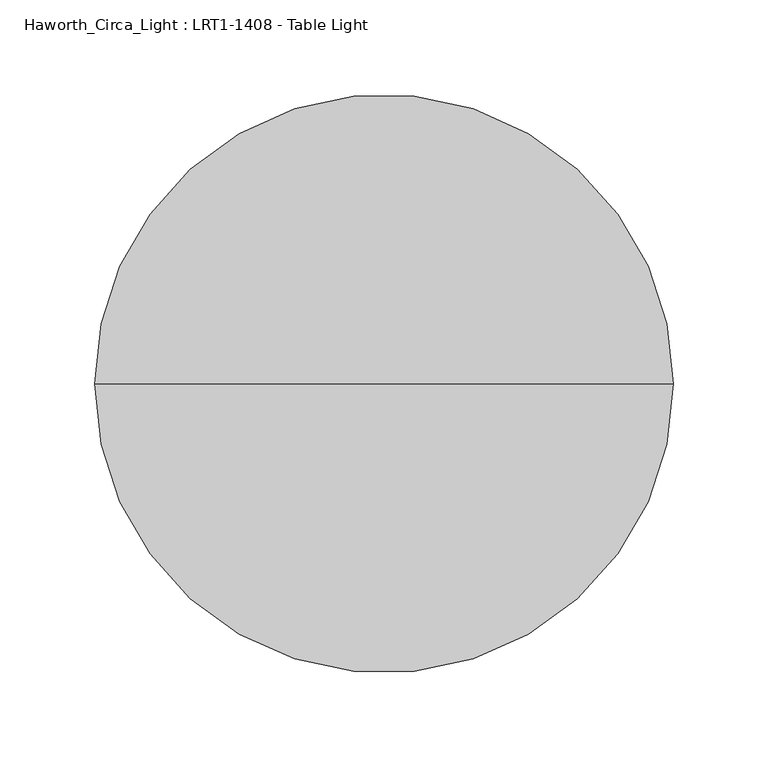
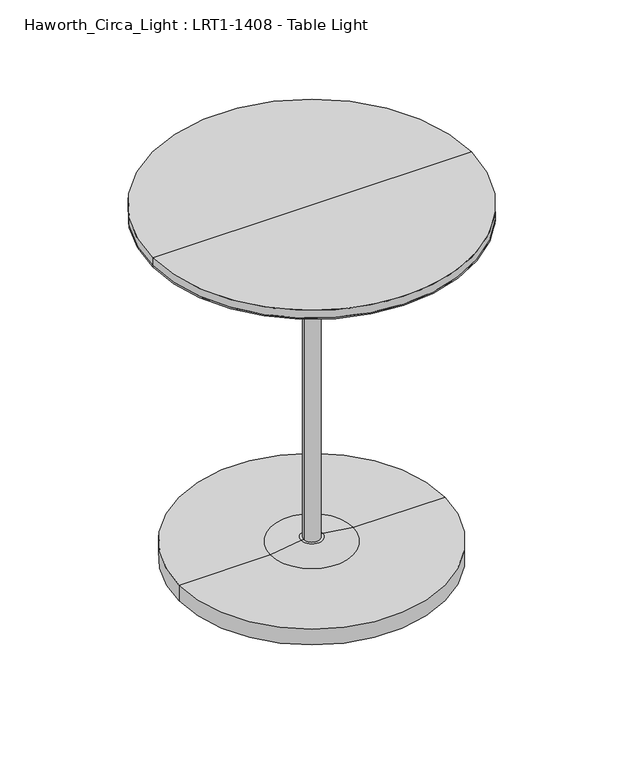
"""IFC4 building model written with IfcOpenShell, lengths in millimetres: light fixture geometry, Haworth_Circa_Light : LRT1-1408 - Table Light."""

from ifc_helpers import new_model, si_unit, frame, origin, place, context, project, spatial, polyline, circle_curve, source, transform, mapped, element, save
from ifc_brep_helpers import plane_surface, cylinder_surface, revolved_surface, advanced_brep


def haworth_circa_light_lrt1_1408_table_light_81ebaa20(model_context):
    return source(origin(), model_context, "Body", "AdvancedBrep", [
        advanced_brep(
        [(-122.9713699, 224.2532085, 1084.3022747), (181.8286301, 224.2532085, 1084.3022747), (181.8286301, 224.2532085, 1083.052351), (-122.9713699, 224.2532085, 1083.052351), (-27.7213699, 224.2532085, 1084.3022747), (86.5786301, 224.2532085, 1084.3022747), (-27.7213699, 224.2532085, 1083.052351), (86.5786301, 224.2532085, 1083.052351)],
        [
            (0, 1, circle_curve(frame((29.4286301, 224.2532085, 1084.3022747), z_axis=(0.0, 0.0, -1.0), x_axis=(1.0, 0.0, 0.0)), 152.4)),
            (1, 2),
            (2, 3, circle_curve(frame((29.4286301, 224.2532085, 1083.052351), z_axis=(0.0, 0.0, 1.0), x_axis=(1.0, 0.0, 0.0)), 152.4)),
            (3, 0),
            (1, 0, circle_curve(frame((29.4286301, 224.2532085, 1084.3022747), z_axis=(0.0, 0.0, -1.0), x_axis=(1.0, 0.0, 0.0)), 152.4)),
            (3, 2, circle_curve(frame((29.4286301, 224.2532085, 1083.052351), z_axis=(0.0, 0.0, 1.0), x_axis=(1.0, 0.0, 0.0)), 152.4)),
            (4, 5, circle_curve(frame((29.4286301, 224.2532085, 1084.3022747), z_axis=(0.0, 0.0, -1.0), x_axis=(1.0, 0.0, 0.0)), 57.15)),
            (5, 1),
            (0, 4),
            (5, 4, circle_curve(frame((29.4286301, 224.2532085, 1084.3022747), z_axis=(0.0, 0.0, -1.0), x_axis=(1.0, 0.0, 0.0)), 57.15)),
            (6, 7, circle_curve(frame((29.4286301, 224.2532085, 1083.052351), z_axis=(0.0, 0.0, -1.0), x_axis=(1.0, 0.0, 0.0)), 57.15)),
            (7, 5),
            (4, 6),
            (7, 6, circle_curve(frame((29.4286301, 224.2532085, 1083.052351), z_axis=(0.0, 0.0, -1.0), x_axis=(1.0, 0.0, 0.0)), 57.15)),
            (2, 7),
            (6, 3),
        ],
        [
            cylinder_surface(frame((29.4286301, 224.2532085, 1128.7522747), z_axis=(0.0, 0.0, 1.0), x_axis=(1.0, 0.0, 0.0)), 152.4),
            plane_surface(frame((29.4286301, 224.2532085, 1084.3022747), z_axis=(0.0, 0.0, 1.0), x_axis=(1.0, 0.0, 0.0))),
            revolved_surface(polyline([(86.5786301, 224.2532085, 1084.3022747), (86.5786301, 224.2532085, 1083.052351)]), (29.4286301, 224.2532085, 1128.7522747), (0.0, 0.0, 1.0)),
            plane_surface(frame((29.4286301, 224.2532085, 1083.052351), z_axis=(0.0, 0.0, -1.0), x_axis=(1.0, 0.0, 0.0))),
        ],
        [
            (0, [[1, 2, 3, 4]]),
            (0, [[5, -4, 6, -2]]),
            (1, [[7, 8, -1, 9]]),
            (1, [[10, -9, -5, -8]]),
            (2, [[11, 12, -7, 13]]),
            (2, [[14, -13, -10, -12]]),
            (3, [[-3, 15, -11, 16]]),
            (3, [[-6, -16, -14, -15]]),
        ],
    ),
        advanced_brep(
        [(-122.9713699, 224.2532085, 1084.3022747), (181.8286301, 224.2532085, 1084.3022747), (86.5786301, 224.2532085, 1084.3022747), (-27.7213699, 224.2532085, 1084.3022747), (-122.9713699, 224.2532085, 1092.2), (181.8286301, 224.2532085, 1092.2), (29.4286301, 224.2532085, 1092.2), (21.8095618, 224.2532085, 1077.3498415), (37.0476983, 224.2532085, 1077.3498415), (29.4286301, 224.2532085, 1077.3498415), (-27.7213699, 224.2532085, 1083.052351), (86.5786301, 224.2532085, 1083.052351)],
        [
            (0, 1, circle_curve(frame((29.4286301, 224.2532085, 1084.3022747), z_axis=(0.0, 0.0, -1.0), x_axis=(1.0, 0.0, 0.0)), 152.4)),
            (1, 2),
            (2, 3, circle_curve(frame((29.4286301, 224.2532085, 1084.3022747), z_axis=(0.0, 0.0, 1.0), x_axis=(1.0, 0.0, 0.0)), 57.15)),
            (3, 0),
            (1, 0, circle_curve(frame((29.4286301, 224.2532085, 1084.3022747), z_axis=(0.0, 0.0, -1.0), x_axis=(1.0, 0.0, 0.0)), 152.4)),
            (3, 2, circle_curve(frame((29.4286301, 224.2532085, 1084.3022747), z_axis=(0.0, 0.0, 1.0), x_axis=(1.0, 0.0, 0.0)), 57.15)),
            (4, 5, circle_curve(frame((29.4286301, 224.2532085, 1092.2), z_axis=(0.0, 0.0, -1.0), x_axis=(1.0, 0.0, 0.0)), 152.4)),
            (5, 1),
            (0, 4),
            (5, 4, circle_curve(frame((29.4286301, 224.2532085, 1092.2), z_axis=(0.0, 0.0, -1.0), x_axis=(1.0, 0.0, 0.0)), 152.4)),
            (6, 5),
            (4, 6),
            (7, 8, circle_curve(frame((29.4286301, 224.2532085, 1077.3498415), z_axis=(0.0, 0.0, -1.0), x_axis=(1.0, 0.0, 0.0)), 7.6190682)),
            (8, 9),
            (9, 7),
            (8, 7, circle_curve(frame((29.4286301, 224.2532085, 1077.3498415), z_axis=(0.0, 0.0, -1.0), x_axis=(1.0, 0.0, 0.0)), 7.6190682)),
            (10, 11, circle_curve(frame((29.4286301, 224.2532085, 1083.052351), z_axis=(0.0, 0.0, -1.0), x_axis=(1.0, 0.0, 0.0)), 57.15)),
            (11, 8),
            (7, 10),
            (11, 10, circle_curve(frame((29.4286301, 224.2532085, 1083.052351), z_axis=(0.0, 0.0, -1.0), x_axis=(1.0, 0.0, 0.0)), 57.15)),
            (2, 11),
            (10, 3),
        ],
        [
            plane_surface(frame((29.4286301, 224.2532085, 1084.3022747), z_axis=(0.0, 0.0, -1.0), x_axis=(1.0, 0.0, 0.0))),
            cylinder_surface(frame((29.4286301, 224.2532085, 1149.35), z_axis=(0.0, 0.0, 1.0), x_axis=(1.0, 0.0, 0.0)), 152.4),
            plane_surface(frame((29.4286301, 224.2532085, 1092.2), z_axis=(0.0, 0.0, 1.0), x_axis=(1.0, 0.0, 0.0))),
            plane_surface(frame((29.4286301, 224.2532085, 1077.3498415), z_axis=(0.0, 0.0, -1.0), x_axis=(1.0, 0.0, 0.0))),
            revolved_surface(polyline([(37.0476983, 224.2532085, 1077.3498415), (86.5786301, 224.2532085, 1083.052351)]), (29.4286301, 224.2532085, 1149.35), (0.0, 0.0, 1.0)),
            cylinder_surface(frame((29.4286301, 224.2532085, 1149.35), z_axis=(0.0, 0.0, 1.0), x_axis=(1.0, 0.0, 0.0)), 57.15),
        ],
        [
            (0, [[1, 2, 3, 4]]),
            (0, [[5, -4, 6, -2]]),
            (1, [[7, 8, -1, 9]]),
            (1, [[10, -9, -5, -8]]),
            (2, [[11, -7, 12]]),
            (2, [[-12, -10, -11]]),
            (3, [[13, 14, 15]]),
            (3, [[16, -15, -14]]),
            (4, [[17, 18, -13, 19]]),
            (4, [[20, -19, -16, -18]]),
            (5, [[-3, 21, -17, 22]]),
            (5, [[-6, -22, -20, -21]]),
        ],
    ),
        advanced_brep(
        [(21.8095618, 224.2532085, 730.25), (37.0476983, 224.2532085, 730.25), (29.4286301, 224.2532085, 730.25), (21.8095618, 224.2532085, 1085.85), (37.0476983, 224.2532085, 1085.85), (29.4286301, 224.2532085, 1085.85)],
        [
            (0, 1, circle_curve(frame((29.4286301, 224.2532085, 730.25), z_axis=(0.0, 0.0, -1.0), x_axis=(1.0, 0.0, 0.0)), 7.6190682)),
            (1, 2),
            (2, 0),
            (1, 0, circle_curve(frame((29.4286301, 224.2532085, 730.25), z_axis=(0.0, 0.0, -1.0), x_axis=(1.0, 0.0, 0.0)), 7.6190682)),
            (3, 4, circle_curve(frame((29.4286301, 224.2532085, 1085.85), z_axis=(0.0, 0.0, -1.0), x_axis=(1.0, 0.0, 0.0)), 7.6190682)),
            (4, 1),
            (0, 3),
            (4, 3, circle_curve(frame((29.4286301, 224.2532085, 1085.85), z_axis=(0.0, 0.0, -1.0), x_axis=(1.0, 0.0, 0.0)), 7.6190682)),
            (5, 4),
            (3, 5),
        ],
        [
            plane_surface(frame((29.4286301, 224.2532085, 730.25), z_axis=(0.0, 0.0, -1.0), x_axis=(1.0, 0.0, 0.0))),
            cylinder_surface(frame((29.4286301, 224.2532085, 1203.325), z_axis=(0.0, 0.0, 1.0), x_axis=(1.0, 0.0, 0.0)), 7.6190682),
            plane_surface(frame((29.4286301, 224.2532085, 1085.85), z_axis=(0.0, 0.0, 1.0), x_axis=(1.0, 0.0, 0.0))),
        ],
        [
            (0, [[1, 2, 3]]),
            (0, [[4, -3, -2]]),
            (1, [[5, 6, -1, 7]]),
            (1, [[8, -7, -4, -6]]),
            (2, [[9, -5, 10]]),
            (2, [[-10, -8, -9]]),
        ],
    ),
        advanced_brep(
        [(-97.5713699, 224.2532085, 736.6), (156.4286301, 224.2532085, 736.6), (29.4286301, 224.2532085, 736.6), (-10.3844077, 224.2532085, 752.5060002), (69.2416679, 224.2532085, 752.5060002), (156.4286301, 224.2532085, 752.5060002), (-97.5713699, 224.2532085, 752.5060002), (18.882059, 224.2532085, 757.0218745), (39.9752012, 224.2532085, 757.0218745), (29.4286301, 224.2532085, 757.0218745)],
        [
            (0, 1, circle_curve(frame((29.4286301, 224.2532085, 736.6), z_axis=(0.0, 0.0, -1.0), x_axis=(1.0, 0.0, 0.0)), 127.0)),
            (1, 2),
            (2, 0),
            (1, 0, circle_curve(frame((29.4286301, 224.2532085, 736.6), z_axis=(0.0, 0.0, -1.0), x_axis=(1.0, 0.0, 0.0)), 127.0)),
            (3, 4, circle_curve(frame((29.4286301, 224.2532085, 752.5060002), z_axis=(0.0, 0.0, -1.0), x_axis=(1.0, 0.0, 0.0)), 39.8130378)),
            (4, 5),
            (5, 6, circle_curve(frame((29.4286301, 224.2532085, 752.5060002), z_axis=(0.0, 0.0, 1.0), x_axis=(1.0, 0.0, 0.0)), 127.0)),
            (6, 3),
            (4, 3, circle_curve(frame((29.4286301, 224.2532085, 752.5060002), z_axis=(0.0, 0.0, -1.0), x_axis=(1.0, 0.0, 0.0)), 39.8130378)),
            (6, 5, circle_curve(frame((29.4286301, 224.2532085, 752.5060002), z_axis=(0.0, 0.0, 1.0), x_axis=(1.0, 0.0, 0.0)), 127.0)),
            (5, 1),
            (0, 6),
            (7, 8, circle_curve(frame((29.4286301, 224.2532085, 757.0218745), z_axis=(0.0, 0.0, -1.0), x_axis=(1.0, 0.0, 0.0)), 10.5465711)),
            (8, 4),
            (3, 7),
            (8, 7, circle_curve(frame((29.4286301, 224.2532085, 757.0218745), z_axis=(0.0, 0.0, -1.0), x_axis=(1.0, 0.0, 0.0)), 10.5465711)),
            (9, 8),
            (7, 9),
        ],
        [
            plane_surface(frame((29.4286301, 224.2532085, 736.6), z_axis=(0.0, 0.0, -1.0), x_axis=(1.0, 0.0, 0.0))),
            plane_surface(frame((29.4286301, 224.2532085, 752.5060002), z_axis=(0.0, 0.0, 1.0), x_axis=(1.0, 0.0, 0.0))),
            cylinder_surface(frame((29.4286301, 224.2532085, 796.5344776), z_axis=(0.0, 0.0, 1.0), x_axis=(1.0, 0.0, 0.0)), 127.0),
            revolved_surface(polyline([(69.2416679, 224.2532085, 752.5060002), (39.9752012, 224.2532085, 757.0218745)]), (29.4286301, 224.2532085, 796.5344776), (0.0, 0.0, 1.0)),
            plane_surface(frame((29.4286301, 224.2532085, 757.0218745), z_axis=(0.0, 0.0, 1.0), x_axis=(1.0, 0.0, 0.0))),
        ],
        [
            (0, [[1, 2, 3]]),
            (0, [[4, -3, -2]]),
            (1, [[5, 6, 7, 8]]),
            (1, [[9, -8, 10, -6]]),
            (2, [[-7, 11, -1, 12]]),
            (2, [[-10, -12, -4, -11]]),
            (3, [[13, 14, -5, 15]]),
            (3, [[16, -15, -9, -14]]),
            (4, [[17, -13, 18]]),
            (4, [[-18, -16, -17]]),
        ],
    ),
    ])


if __name__ == "__main__":
    model = new_model("IFC4")
    model_context = context("Model", 3, world=origin())
    ifc_project = project(units=[si_unit("LENGTHUNIT", "METRE", prefix="MILLI")], contexts=[model_context])
    site = spatial("IfcSite", under=ifc_project)
    building = spatial("IfcBuilding", under=site)
    placement = place(None, origin())
    haworth_circa_light_lrt1_1408_table_light_shape = haworth_circa_light_lrt1_1408_table_light_81ebaa20(model_context)
    element("IfcLightFixture", 1, ObjectType="Haworth_Circa_Light : LRT1-1408 - Table Light", at=placement, inside=building, context=model_context, shape_type="MappedRepresentation", body=[
        mapped(haworth_circa_light_lrt1_1408_table_light_shape, transform((0.0, 0.0, 0.0), x_axis=(1.0, 0.0, 0.0), y_axis=(0.0, 1.0, 0.0), z_axis=(0.0, 0.0, 1.0))),
    ])
    save(model, "model.ifc")
